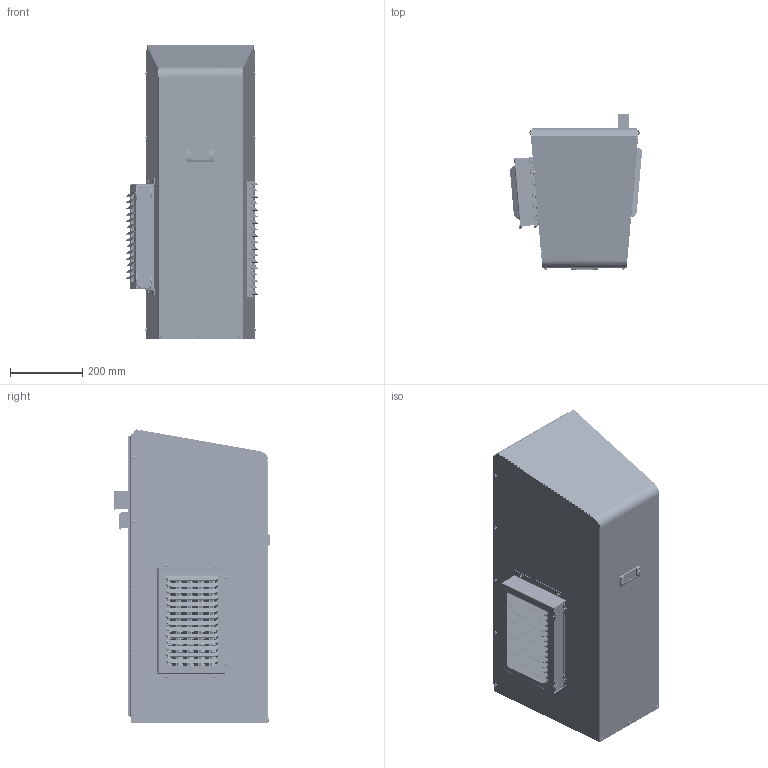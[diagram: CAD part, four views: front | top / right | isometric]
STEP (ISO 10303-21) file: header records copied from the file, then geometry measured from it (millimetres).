
FILE_DESCRIPTION(/* description */ ('Unknown'),/* implementation_level */ '2;1');
FILE_NAME(/* name */ 'NE020-030-040 480V Short - OK For Distribution',/* time_stamp */ '2021-04-29T15:41:22-05:00',/* author */ ('Unknown'),/* organization */ ('Unknown'),/* preprocessor_version */ 'ST-DEVELOPER v16.7',/* originating_system */ 'Solid Edge',/* authorisation */ 'Unknown');
FILE_SCHEMA (('AUTOMOTIVE_DESIGN {1 0 10303 214 3 1 1}'));
Products named in the file (80): NE234 480V with Rear Transformer ; 20022-480S, Chassis, NE234 480V Short; 20022-480S, Chassis, NE234, 460V Short; PEM 0518-1 Clinch Nut_0; 20003-480S, Shroud, NE234 460V Short; Screw_#10-32 x .375 Torx Head Pan Screw - Shroud Screws_2; 22416, Filter Retainer, Louvered, Thin, with Security Tabs, NE234; Display DIXELL TS at 90F, NO TERMINATIONS_0; Display Body DIXELL_3; Display Numeral 0_5; Display Numeral 9_5; Display Connector DIXELL_2; OA172SAP-11-1TB XC with blades_1; Switch_Cherry RRA22H3BBBN_2; 22401, Seal, Evap Bottom, NE040 Gen II; 22435-480S, SubAsm, Condenser, Gen II, 480V Short; 22436-480S, PLENUM, DEEP, NE234, 460V Short; 22437-480S, Baffle, Condenser Ceiling, NE234 Gen II, 460V Short; 22422-480S, Mount, Condenser 172mmFan, NE234, 460V Short; 22438-480S, Baffle, Condenser Floor, NE040 Gen II, 460V Short; 0.1875 Rivet, SIMPLE and SWOLLEN_2; 30023_Condenser_1; end plt 4x6 3 row 1 in Flg_1; 30023 Fin Face, 6.875w x 13h x 3 row_1; end plt B 4x6 3 row 1 in Flg_1; 1.00 CU Hairpin_1; 1.00 CU Return_2; 30023_Cndsr Inlet Manifold_1; 30023_inlet manifold_0; 30023_high side manifold_0; 30008 Rev A, Evap Coil, NE040, -030, -020_1; 30008, Flange, Evap Coil, 10h x 3 row, Left_0; 30008, Flange, Evap Coil, 10h x 3 row, Right_0; 7.5w 10h 3 row Fin Face_1; 22445-480S, Transformer Baffle and Mount, NE234 460V Short; 22445-480S, Transformer Baffle, NE234 460V Short; PEM stud FH-0420-12_0; 22441, seal, Evap Top, NE040 Gen II_1; 22439, Standoff, Left, NE040 Gen II_1; 22440, Standoff, Right, NE040 Gen II_1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
Assembly tree (197 placements, depth 4):
  NE234 480V with Rear Transformer 
    20022-480S, Chassis, NE234 480V Short
      20022-480S, Chassis, NE234, 460V Short
      PEM 0518-1 Clinch Nut_0  x3
    20003-480S, Shroud, NE234 460V Short
    Screw_#10-32 x .375 Torx Head Pan Screw - Shroud Screws_2  x27
    22416, Filter Retainer, Louvered, Thin, with Security Tabs, NE234
    Display DIXELL TS at 90F, NO TERMINATIONS_0
      Display Body DIXELL_3
      Display Numeral 0_5
      Display Numeral 9_5
      Display Connector DIXELL_2
    OA172SAP-11-1TB XC with blades_1
    Switch_Cherry RRA22H3BBBN_2
    22401, Seal, Evap Bottom, NE040 Gen II
    22435-480S, SubAsm, Condenser, Gen II, 480V Short
      22436-480S, PLENUM, DEEP, NE234, 460V Short
      22437-480S, Baffle, Condenser Ceiling, NE234 Gen II, 460V Short
      22422-480S, Mount, Condenser 172mmFan, NE234, 460V Short
      22438-480S, Baffle, Condenser Floor, NE040 Gen II, 460V Short
      0.1875 Rivet, SIMPLE and SWOLLEN_2  x19
    30023_Condenser_1
      end plt 4x6 3 row 1 in Flg_1
      30023 Fin Face, 6.875w x 13h x 3 row_1
      end plt B 4x6 3 row 1 in Flg_1
      1.00 CU Hairpin_1  x20
      1.00 CU Return_2  x18
      30023_Cndsr Inlet Manifold_1  x2
      30023_inlet manifold_0
      30023_high side manifold_0
    30008 Rev A, Evap Coil, NE040, -030, -020_1
      30008, Flange, Evap Coil, 10h x 3 row, Left_0
        30008, Flange, Evap Coil, 10h x 3 row, Left_0
      30008, Flange, Evap Coil, 10h x 3 row, Right_0
        30008, Flange, Evap Coil, 10h x 3 row, Right_0
      7.5w 10h 3 row Fin Face_1
        7.5w 10h 3 row Fin Face_1
    22445-480S, Transformer Baffle and Mount, NE234 460V Short
      22445-480S, Transformer Baffle, NE234 460V Short
      PEM stud FH-0420-12_0  x4
    22441, seal, Evap Top, NE040 Gen II_1
    22439, Standoff, Left, NE040 Gen II_1
    22440, Standoff, Right, NE040 Gen II_1
    71301-480S-18, Ceiling Insulation, Right, Deep Plenum, NE234 480V Sho
rt
    dfk-pc_5-3-st_7.62
    71301-480S-15, Plenum Insulation, Deep, External, Gen II
    71301-480S-17, Insulation, 480V Plenum Floor, NE020-030-040
    71301-480S-6, Plenum Insulation, Deep, Internal
    22404_PAN, EVAPORATOR, NE040_0
      22404, Pan, Condensate, NE040_0
      ALUM TUBE 375 X 1_1
      22404_PAN, EVAPORATOR, NE040_487_589_Fillet 5_oa_0
      22404_PAN, EVAPORATOR, NE040_487_589_Fillet 5_oa_1
      22404_PAN, EVAPORATOR, NE040_487_589_Fillet 5_oa_2
      22404_PAN, EVAPORATOR, NE040_487_589_Fillet 5_oa_3
      22404_PAN, EVAPORATOR, NE040_487_589_Fillet 5_oa_4
    52544-1, Phoenix SPC-PC5_3-ST-7,62 Plug
      spc_5-3-st-7.62
    22428-1, Phoenix Term Blk Cover, 3 Position, Vertical_0
    Finger Guard 172mm_1
Bounding box: 365.69 x 434.53 x 813.29 mm (x, y, z)
Volume: 12627064.8 mm3; surface area: 6135036.6 mm2
Topology: 230 solids, 234 shells, 7443 faces, 19501 edges, 12509 vertices
Faces by surface type: plane 4146, cylinder 2418, torus 390, bspline 212, cone 188, sphere 89
Full cylindrical faces by diameter (mm): 0.457 x2, 0.664 x3, 0.926 x2, 1.143 x4, 1.633 x1, 2.083 x2, 2.311 x2, 2.515 x4, 2.769 x9, 2.946 x2, 3.048 x4, 3.175 x21, 3.2 x4, 3.454 x3, 3.556 x4, 3.81 x12, 3.962 x1, 3.967 x1, 4.039 x25, 4.216 x4, 4.394 x2, 4.4 x8, 4.724 x27, 4.75 x4, 4.775 x86, 4.826 x1, 4.902 x4, 4.928 x40, 4.976 x12, 5.105 x6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
Entity records: 174976 total; most frequent: CARTESIAN_POINT 38875, ORIENTED_EDGE 26070, DIRECTION 25803, EDGE_CURVE 13035, LINE 8983, VECTOR 8983, VERTEX_POINT 8708, AXIS2_PLACEMENT_3D 8410
